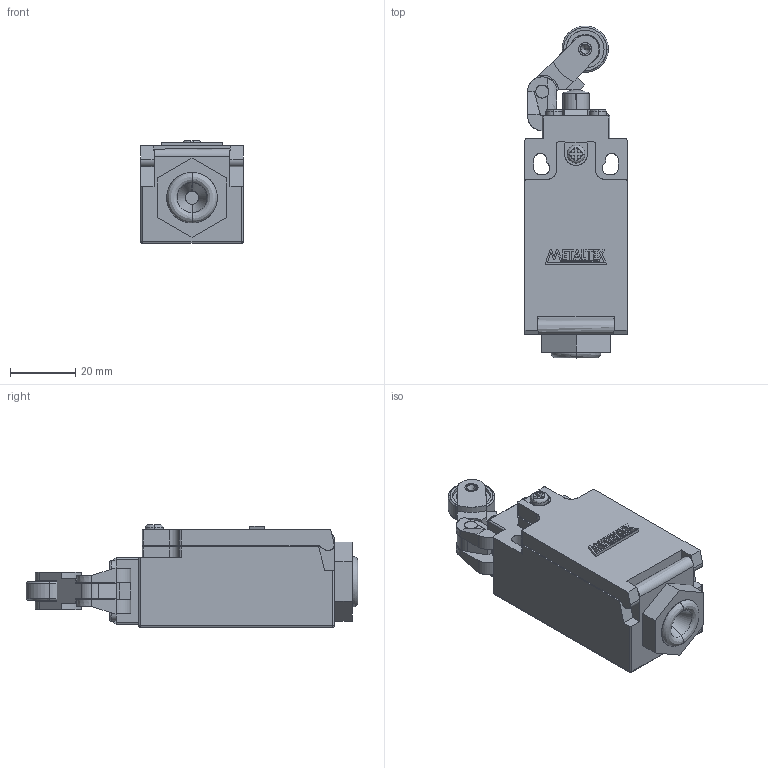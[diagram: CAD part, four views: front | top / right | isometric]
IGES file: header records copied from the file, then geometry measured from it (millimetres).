
Start section: SolidWorks IGES file using analytic representation for surfaces
Global section: file name: D:\X - Arquivos\PROEX\Empresas\P11 - METALTEX\01 - Produtos\IGES\4ª remessa\5ª etapa\FM9224.IGS; native system: SolidWorks 2012; preprocessor: SolidWorks 2012; author: Usuario; date: 180601.135534; units: millimetre
Bounding box: 31.3 x 101.8 x 31.5 mm (x, y, z)
Surface area: 14420.3 mm2 (no closed solid volume)
Topology: 0 solids, 0 shells, 444 faces, 4303 edges, 4299 vertices
Faces by surface type: bspline 325, revolution 119
